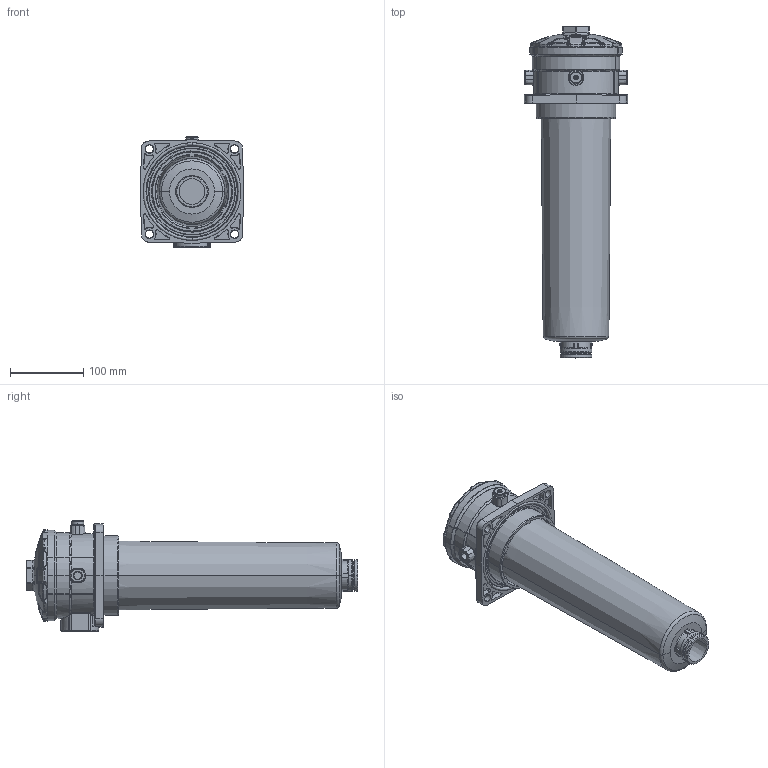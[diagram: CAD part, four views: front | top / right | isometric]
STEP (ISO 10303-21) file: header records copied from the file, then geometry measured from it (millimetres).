
FILE_DESCRIPTION((''),'2;1');
FILE_NAME('1000509183','2024-06-05T15:50:18',('t.wendel'),(''),'CREO PARAMETRIC BY PTC INC, 2023254','CREO PARAMETRIC BY PTC INC, 2023254','');
FILE_SCHEMA(('AUTOMOTIVE_DESIGN { 1 0 10303 214 1 1 1 1 }'));
Length unit declared in the file: millimetre
Products named in the file (1): 1000509183
Bounding box: 141.5 x 454.6 x 150.75 mm (x, y, z)
Volume: 3328007.3 mm3; surface area: 213528.4 mm2
Topology: 1 solids, 2 shells, 1406 faces, 3585 edges, 2165 vertices
Faces by surface type: plane 414, bspline 355, cone 188, cylinder 185, torus 144, sphere 86, extrusion 31, revolution 3
Entity records: 71379 total; most frequent: CARTESIAN_POINT 29299, ORIENTED_EDGE 7026, DIRECTION 6131, PRESENTATION_STYLE_ASSIGNMENT 3514, STYLED_ITEM 3514, CURVE_STYLE 3513, EDGE_CURVE 3513, AXIS2_PLACEMENT_3D 2596
